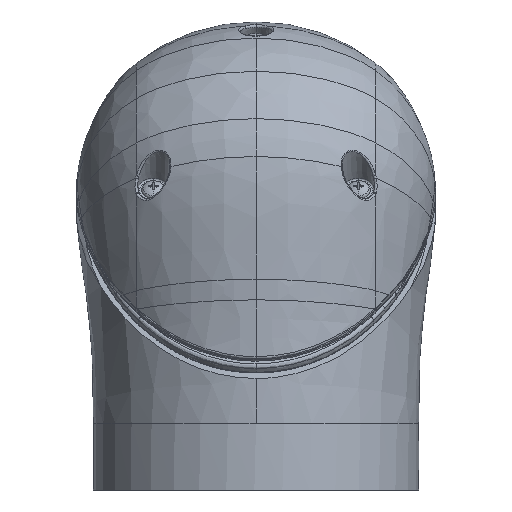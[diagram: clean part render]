
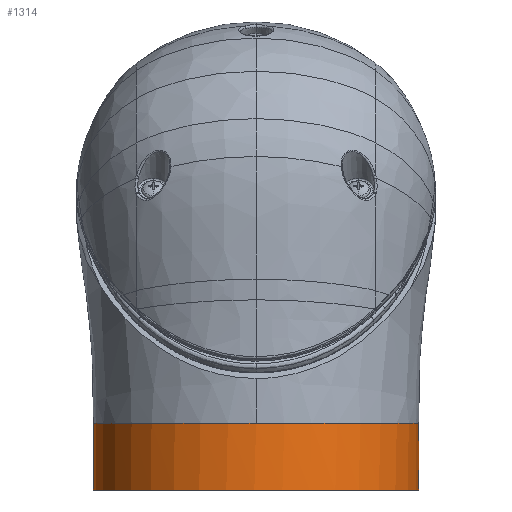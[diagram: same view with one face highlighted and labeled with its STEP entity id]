
A CAD part, left-side view. The second image highlights one B-rep face of the part: STEP entity #1314.
In plain terms, the highlighted cylindrical face has radius 47.5 mm (diameter 95 mm), a partial arc.
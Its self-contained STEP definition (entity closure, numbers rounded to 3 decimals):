
#71=CYLINDRICAL_SURFACE('',#20252,47.5);
#244=LINE('',#18399,#559);
#245=LINE('',#18407,#560);
#246=LINE('',#18408,#561);
#559=VECTOR('',#20282,13.5);
#560=VECTOR('',#20282,19.5);
#561=VECTOR('',#20282,5.);
#655=CIRCLE('',#19911,47.5);
#658=CIRCLE('',#19914,47.5);
#874=CIRCLE('',#20253,47.5);
#1314=ADVANCED_FACE('1300_MODEL-C005',(#1674),#71,.T.);
#1674=FACE_OUTER_BOUND('',#5719,.T.);
#3302=ORIENTED_EDGE('',*,*,#4270,.T.);
#3303=ORIENTED_EDGE('',*,*,#4271,.T.);
#3304=ORIENTED_EDGE('',*,*,#3495,.F.);
#3305=ORIENTED_EDGE('',*,*,#3501,.T.);
#3306=ORIENTED_EDGE('',*,*,#4272,.F.);
#3307=ORIENTED_EDGE('',*,*,#4273,.T.);
#3308=ORIENTED_EDGE('',*,*,#4274,.T.);
#3495=EDGE_CURVE('26',#4883,#4884,#655,.T.);
#3501=EDGE_CURVE('32',#4883,#4888,#658,.T.);
#4270=EDGE_CURVE('797',#5340,#5341,#4817,.T.);
#4271=EDGE_CURVE('798',#5341,#4884,#244,.T.);
#4272=EDGE_CURVE('799',#5342,#4888,#245,.T.);
#4273=EDGE_CURVE('800',#5342,#5343,#874,.T.);
#4274=EDGE_CURVE('801',#5343,#5340,#246,.T.);
#4817=B_SPLINE_CURVE_WITH_KNOTS('',3,(#18398,#18400,#18401,#18402,#18403,
#18404,#18405,#18406,#18399),.UNSPECIFIED.,.F.,.U.,(4,1,1,1,1,1,4),(0.,
0.167,0.333,0.5,0.667,0.833,1.),
 .UNSPECIFIED.);
#4883=VERTEX_POINT('22',#6566);
#4884=VERTEX_POINT('23',#6570);
#4888=VERTEX_POINT('27',#7014);
#5340=VERTEX_POINT('475',#18398);
#5341=VERTEX_POINT('476',#18399);
#5342=VERTEX_POINT('477',#18407);
#5343=VERTEX_POINT('478',#18408);
#5719=EDGE_LOOP('',(#3302,#3303,#3304,#3305,#3306,#3307,#3308));
#6566=CARTESIAN_POINT('',(-97.5,930.,522.3));
#6570=CARTESIAN_POINT('',(-50.,882.5,522.3));
#6571=CARTESIAN_POINT('',(-50.,930.,522.3));
#7014=CARTESIAN_POINT('',(-50.,977.5,522.3));
#7035=CARTESIAN_POINT('',(-50.,930.,522.3));
#18397=CARTESIAN_POINT('',(-50.,930.,502.8));
#18398=CARTESIAN_POINT('',(-51.,882.511,507.8));
#18399=CARTESIAN_POINT('',(-50.,882.5,508.8));
#18400=CARTESIAN_POINT('',(-51.,882.511,507.889));
#18401=CARTESIAN_POINT('',(-50.977,882.51,508.061));
#18402=CARTESIAN_POINT('',(-50.876,882.508,508.306));
#18403=CARTESIAN_POINT('',(-50.715,882.505,508.515));
#18404=CARTESIAN_POINT('',(-50.506,882.503,508.676));
#18405=CARTESIAN_POINT('',(-50.261,882.5,508.777));
#18406=CARTESIAN_POINT('',(-50.089,882.5,508.8));
#18407=CARTESIAN_POINT('',(-50.,977.5,502.8));
#18408=CARTESIAN_POINT('',(-51.,882.511,502.8));
#18409=CARTESIAN_POINT('',(-50.,930.,502.8));
#19911=AXIS2_PLACEMENT_3D('',#6571,#20282,#20291);
#19914=AXIS2_PLACEMENT_3D('',#7035,#20293,#20294);
#20252=AXIS2_PLACEMENT_3D('',#18397,#20282,#21045);
#20253=AXIS2_PLACEMENT_3D('',#18409,#20282,#20413);
#20282=DIRECTION('',(0.,0.,1.));
#20291=DIRECTION('',(-1.,0.,0.));
#20293=DIRECTION('',(0.,0.,-1.));
#20294=DIRECTION('',(-1.,0.,0.));
#20413=DIRECTION('',(0.,1.,0.));
#21045=DIRECTION('',(0.011,1.,0.));
